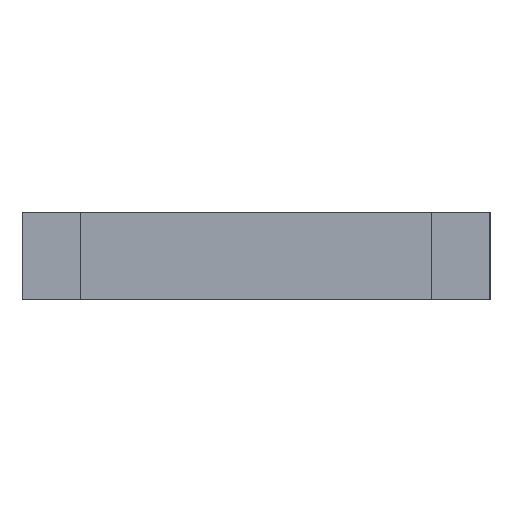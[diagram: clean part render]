
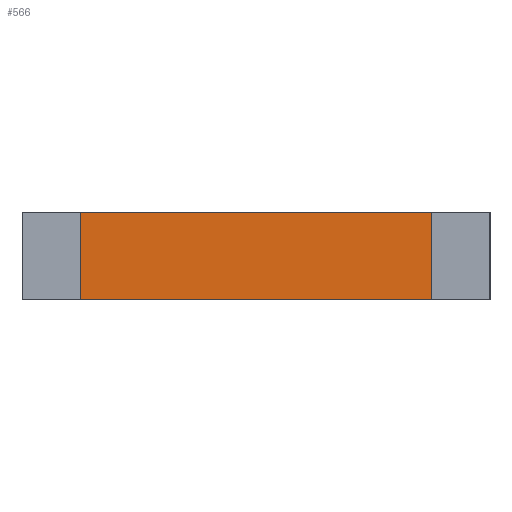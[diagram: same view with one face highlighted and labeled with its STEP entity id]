
A CAD part, left-side view. The second image highlights one B-rep face of the part: STEP entity #566.
In plain terms, the highlighted planar face has unit normal (-1, 0, 0).
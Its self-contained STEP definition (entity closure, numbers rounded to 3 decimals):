
#24 = VERTEX_POINT('',#25);
#25 = CARTESIAN_POINT('',(-12.,6.,12.));
#32 = PLANE('',#33);
#33 = AXIS2_PLACEMENT_3D('',#34,#35,#36);
#34 = CARTESIAN_POINT('',(0.,-6.,12.));
#35 = DIRECTION('',(0.,0.,1.));
#36 = DIRECTION('',(1.,0.,-0.));
#44 = PLANE('',#45);
#45 = AXIS2_PLACEMENT_3D('',#46,#47,#48);
#46 = CARTESIAN_POINT('',(-12.,6.,9.));
#47 = DIRECTION('',(-0.,1.,0.));
#48 = DIRECTION('',(0.,0.,1.));
#56 = EDGE_CURVE('',#57,#24,#59,.T.);
#57 = VERTEX_POINT('',#58);
#58 = CARTESIAN_POINT('',(-12.,-6.,12.));
#59 = SURFACE_CURVE('',#60,(#64,#71),.PCURVE_S1.);
#60 = LINE('',#61,#62);
#61 = CARTESIAN_POINT('',(-12.,-6.,12.));
#62 = VECTOR('',#63,1.);
#63 = DIRECTION('',(-0.,1.,0.));
#64 = PCURVE('',#32,#65);
#65 = DEFINITIONAL_REPRESENTATION('',(#66),#70);
#66 = LINE('',#67,#68);
#67 = CARTESIAN_POINT('',(-12.,0.));
#68 = VECTOR('',#69,1.);
#69 = DIRECTION('',(0.,1.));
#70 = ( GEOMETRIC_REPRESENTATION_CONTEXT(2) 
PARAMETRIC_REPRESENTATION_CONTEXT() REPRESENTATION_CONTEXT('2D SPACE',''
  ) );
#71 = PCURVE('',#72,#77);
#72 = PLANE('',#73);
#73 = AXIS2_PLACEMENT_3D('',#74,#75,#76);
#74 = CARTESIAN_POINT('',(-12.,-6.,9.));
#75 = DIRECTION('',(1.,0.,-0.));
#76 = DIRECTION('',(0.,0.,1.));
#77 = DEFINITIONAL_REPRESENTATION('',(#78),#82);
#78 = LINE('',#79,#80);
#79 = CARTESIAN_POINT('',(3.,0.));
#80 = VECTOR('',#81,1.);
#81 = DIRECTION('',(0.,-1.));
#82 = ( GEOMETRIC_REPRESENTATION_CONTEXT(2) 
PARAMETRIC_REPRESENTATION_CONTEXT() REPRESENTATION_CONTEXT('2D SPACE',''
  ) );
#100 = PLANE('',#101);
#101 = AXIS2_PLACEMENT_3D('',#102,#103,#104);
#102 = CARTESIAN_POINT('',(-12.,-6.,9.));
#103 = DIRECTION('',(-0.,1.,0.));
#104 = DIRECTION('',(0.,0.,1.));
#427 = EDGE_CURVE('',#428,#24,#430,.T.);
#428 = VERTEX_POINT('',#429);
#429 = CARTESIAN_POINT('',(-12.,6.,9.));
#430 = SURFACE_CURVE('',#431,(#435,#442),.PCURVE_S1.);
#431 = LINE('',#432,#433);
#432 = CARTESIAN_POINT('',(-12.,6.,9.));
#433 = VECTOR('',#434,1.);
#434 = DIRECTION('',(0.,0.,1.));
#435 = PCURVE('',#44,#436);
#436 = DEFINITIONAL_REPRESENTATION('',(#437),#441);
#437 = LINE('',#438,#439);
#438 = CARTESIAN_POINT('',(0.,0.));
#439 = VECTOR('',#440,1.);
#440 = DIRECTION('',(1.,0.));
#441 = ( GEOMETRIC_REPRESENTATION_CONTEXT(2) 
PARAMETRIC_REPRESENTATION_CONTEXT() REPRESENTATION_CONTEXT('2D SPACE',''
  ) );
#442 = PCURVE('',#72,#443);
#443 = DEFINITIONAL_REPRESENTATION('',(#444),#448);
#444 = LINE('',#445,#446);
#445 = CARTESIAN_POINT('',(0.,-12.));
#446 = VECTOR('',#447,1.);
#447 = DIRECTION('',(1.,0.));
#448 = ( GEOMETRIC_REPRESENTATION_CONTEXT(2) 
PARAMETRIC_REPRESENTATION_CONTEXT() REPRESENTATION_CONTEXT('2D SPACE',''
  ) );
#486 = PLANE('',#487);
#487 = AXIS2_PLACEMENT_3D('',#488,#489,#490);
#488 = CARTESIAN_POINT('',(-12.,-6.,9.));
#489 = DIRECTION('',(0.,0.,1.));
#490 = DIRECTION('',(1.,0.,-0.));
#502 = VERTEX_POINT('',#503);
#503 = CARTESIAN_POINT('',(-12.,-6.,9.));
#526 = EDGE_CURVE('',#502,#57,#527,.T.);
#527 = SURFACE_CURVE('',#528,(#532,#539),.PCURVE_S1.);
#528 = LINE('',#529,#530);
#529 = CARTESIAN_POINT('',(-12.,-6.,9.));
#530 = VECTOR('',#531,1.);
#531 = DIRECTION('',(0.,0.,1.));
#532 = PCURVE('',#100,#533);
#533 = DEFINITIONAL_REPRESENTATION('',(#534),#538);
#534 = LINE('',#535,#536);
#535 = CARTESIAN_POINT('',(0.,0.));
#536 = VECTOR('',#537,1.);
#537 = DIRECTION('',(1.,0.));
#538 = ( GEOMETRIC_REPRESENTATION_CONTEXT(2) 
PARAMETRIC_REPRESENTATION_CONTEXT() REPRESENTATION_CONTEXT('2D SPACE',''
  ) );
#539 = PCURVE('',#72,#540);
#540 = DEFINITIONAL_REPRESENTATION('',(#541),#545);
#541 = LINE('',#542,#543);
#542 = CARTESIAN_POINT('',(0.,0.));
#543 = VECTOR('',#544,1.);
#544 = DIRECTION('',(1.,0.));
#545 = ( GEOMETRIC_REPRESENTATION_CONTEXT(2) 
PARAMETRIC_REPRESENTATION_CONTEXT() REPRESENTATION_CONTEXT('2D SPACE',''
  ) );
#566 = ADVANCED_FACE('',(#567),#72,.F.);
#567 = FACE_BOUND('',#568,.F.);
#568 = EDGE_LOOP('',(#569,#570,#591,#592));
#569 = ORIENTED_EDGE('',*,*,#526,.F.);
#570 = ORIENTED_EDGE('',*,*,#571,.T.);
#571 = EDGE_CURVE('',#502,#428,#572,.T.);
#572 = SURFACE_CURVE('',#573,(#577,#584),.PCURVE_S1.);
#573 = LINE('',#574,#575);
#574 = CARTESIAN_POINT('',(-12.,-6.,9.));
#575 = VECTOR('',#576,1.);
#576 = DIRECTION('',(-0.,1.,0.));
#577 = PCURVE('',#72,#578);
#578 = DEFINITIONAL_REPRESENTATION('',(#579),#583);
#579 = LINE('',#580,#581);
#580 = CARTESIAN_POINT('',(0.,0.));
#581 = VECTOR('',#582,1.);
#582 = DIRECTION('',(0.,-1.));
#583 = ( GEOMETRIC_REPRESENTATION_CONTEXT(2) 
PARAMETRIC_REPRESENTATION_CONTEXT() REPRESENTATION_CONTEXT('2D SPACE',''
  ) );
#584 = PCURVE('',#486,#585);
#585 = DEFINITIONAL_REPRESENTATION('',(#586),#590);
#586 = LINE('',#587,#588);
#587 = CARTESIAN_POINT('',(0.,0.));
#588 = VECTOR('',#589,1.);
#589 = DIRECTION('',(0.,1.));
#590 = ( GEOMETRIC_REPRESENTATION_CONTEXT(2) 
PARAMETRIC_REPRESENTATION_CONTEXT() REPRESENTATION_CONTEXT('2D SPACE',''
  ) );
#591 = ORIENTED_EDGE('',*,*,#427,.T.);
#592 = ORIENTED_EDGE('',*,*,#56,.F.);
